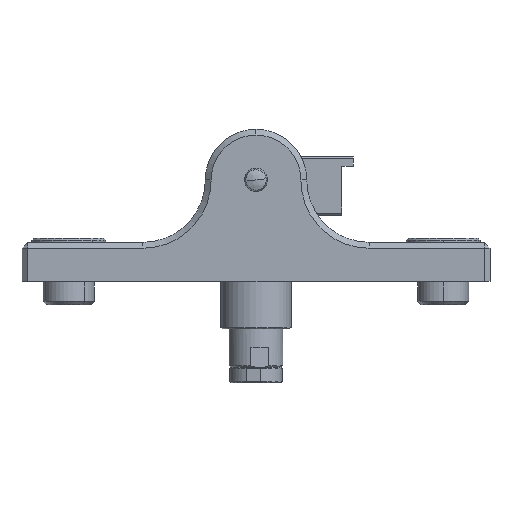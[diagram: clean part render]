
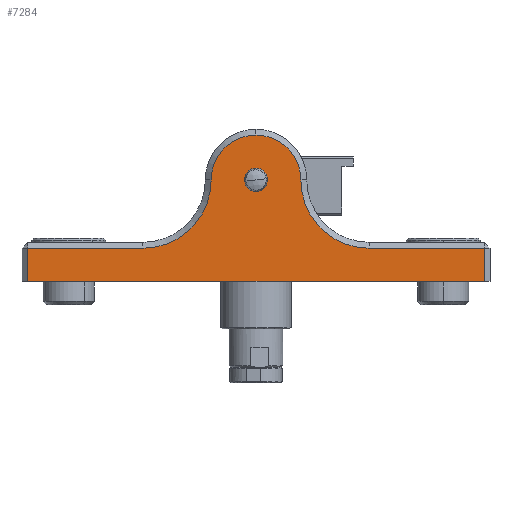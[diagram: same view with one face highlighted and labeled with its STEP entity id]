
A CAD part, front view. The second image highlights one B-rep face of the part: STEP entity #7284.
In plain terms, the highlighted planar face has unit normal (0, -1, 0).
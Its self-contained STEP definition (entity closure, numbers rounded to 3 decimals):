
#17 = AXIS2_PLACEMENT_3D ( 'NONE', #5897, #5898, #5899 ) ;
#352 = EDGE_CURVE ( 'NONE', #4392, #4394, #3627, .T. ) ;
#457 = EDGE_CURVE ( 'NONE', #4392, #4401, #2226, .T. ) ;
#476 = EDGE_CURVE ( 'NONE', #4369, #4370, #3788, .T. ) ;
#1190 = LINE ( 'NONE', #1191, #6326 ) ;
#1191 = CARTESIAN_POINT ( 'NONE',  ( -29., -12.5, 8.5 ) ) ;
#1192 = DIRECTION ( 'NONE',  ( -1., 0., 0. ) ) ;
#1355 = CARTESIAN_POINT ( 'NONE',  ( 0., -12.5, 26. ) ) ;
#1356 = DIRECTION ( 'NONE',  ( 0., 1., 0. ) ) ;
#1357 = DIRECTION ( 'NONE',  ( 0., 0., 1. ) ) ;
#1366 = LINE ( 'NONE', #3827, #3180 ) ;
#2094 = ORIENTED_EDGE ( 'NONE', *, *, #457, .T. ) ;
#2095 = ORIENTED_EDGE ( 'NONE', *, *, #7690, .T. ) ;
#2096 = ORIENTED_EDGE ( 'NONE', *, *, #352, .F. ) ;
#2101 = ORIENTED_EDGE ( 'NONE', *, *, #7629, .T. ) ;
#2126 = VECTOR ( 'NONE', #5904, 1000. ) ;
#2226 = LINE ( 'NONE', #2232, #3821 ) ;
#2232 = CARTESIAN_POINT ( 'NONE',  ( 58.5, -12.5, 26. ) ) ;
#2233 = DIRECTION ( 'NONE',  ( 0., 0., 1. ) ) ;
#2290 = CARTESIAN_POINT ( 'NONE',  ( 0., -12.5, 26. ) ) ;
#2291 = DIRECTION ( 'NONE',  ( 0., 1., 0. ) ) ;
#2292 = DIRECTION ( 'NONE',  ( 0., 0., 1. ) ) ;
#2595 = CARTESIAN_POINT ( 'NONE',  ( 0., -12.5, 26. ) ) ;
#2596 = DIRECTION ( 'NONE',  ( 0., -1., 0. ) ) ;
#2597 = DIRECTION ( 'NONE',  ( 0., 0., 1. ) ) ;
#3081 = CIRCLE ( 'NONE', #17, 11.5 ) ;
#3094 = AXIS2_PLACEMENT_3D ( 'NONE', #3841, #3842, #3843 ) ;
#3128 = AXIS2_PLACEMENT_3D ( 'NONE', #3844, #3845, #3846 ) ;
#3136 = CIRCLE ( 'NONE', #3147, 3. ) ;
#3141 = CIRCLE ( 'NONE', #3128, 17.5 ) ;
#3147 = AXIS2_PLACEMENT_3D ( 'NONE', #1355, #1356, #1357 ) ;
#3180 = VECTOR ( 'NONE', #3828, 1000. ) ;
#3188 = CIRCLE ( 'NONE', #3094, 17.5 ) ;
#3369 = ORIENTED_EDGE ( 'NONE', *, *, #7906, .T. ) ;
#3380 = ORIENTED_EDGE ( 'NONE', *, *, #7903, .T. ) ;
#3381 = ORIENTED_EDGE ( 'NONE', *, *, #7473, .T. ) ;
#3387 = ORIENTED_EDGE ( 'NONE', *, *, #7696, .T. ) ;
#3412 = ORIENTED_EDGE ( 'NONE', *, *, #7684, .T. ) ;
#3413 = ORIENTED_EDGE ( 'NONE', *, *, #476, .T. ) ;
#3414 = ORIENTED_EDGE ( 'NONE', *, *, #7695, .T. ) ;
#3621 = CARTESIAN_POINT ( 'NONE',  ( -60., -12.5, 0. ) ) ;
#3627 = LINE ( 'NONE', #3621, #6367 ) ;
#3631 = DIRECTION ( 'NONE',  ( -1., 0., 0. ) ) ;
#3743 = AXIS2_PLACEMENT_3D ( 'NONE', #5204, #5215, #5216 ) ;
#3786 = AXIS2_PLACEMENT_3D ( 'NONE', #2290, #2291, #2292 ) ;
#3788 = CIRCLE ( 'NONE', #3786, 3. ) ;
#3821 = VECTOR ( 'NONE', #2233, 1000. ) ;
#3827 = CARTESIAN_POINT ( 'NONE',  ( -58.5, -12.5, 26. ) ) ;
#3828 = DIRECTION ( 'NONE',  ( 0., 0., -1. ) ) ;
#3841 = CARTESIAN_POINT ( 'NONE',  ( 29., -12.5, 26. ) ) ;
#3842 = DIRECTION ( 'NONE',  ( 0., 1., 0. ) ) ;
#3843 = DIRECTION ( 'NONE',  ( 0., 0., 1. ) ) ;
#3844 = CARTESIAN_POINT ( 'NONE',  ( -29., -12.5, 26. ) ) ;
#3845 = DIRECTION ( 'NONE',  ( 0., 1., 0. ) ) ;
#3846 = DIRECTION ( 'NONE',  ( 0., 0., 1. ) ) ;
#4305 = EDGE_LOOP ( 'NONE', ( #3413, #3412 ) ) ;
#4308 = EDGE_LOOP ( 'NONE', ( #2101, #2095, #2096, #2094, #3369, #3414, #3381, #3380, #3387 ) ) ;
#4331 = VERTEX_POINT ( 'NONE', #4670 ) ;
#4369 = VERTEX_POINT ( 'NONE', #4706 ) ;
#4370 = VERTEX_POINT ( 'NONE', #4707 ) ;
#4386 = VERTEX_POINT ( 'NONE', #4723 ) ;
#4392 = VERTEX_POINT ( 'NONE', #4729 ) ;
#4394 = VERTEX_POINT ( 'NONE', #4731 ) ;
#4399 = VERTEX_POINT ( 'NONE', #4736 ) ;
#4400 = VERTEX_POINT ( 'NONE', #4737 ) ;
#4401 = VERTEX_POINT ( 'NONE', #4738 ) ;
#4575 = VERTEX_POINT ( 'NONE', #4912 ) ;
#4576 = VERTEX_POINT ( 'NONE', #4913 ) ;
#4670 = CARTESIAN_POINT ( 'NONE',  ( -29., -12.5, 8.5 ) ) ;
#4706 = CARTESIAN_POINT ( 'NONE',  ( 0., -12.5, 23. ) ) ;
#4707 = CARTESIAN_POINT ( 'NONE',  ( 0., -12.5, 29. ) ) ;
#4723 = CARTESIAN_POINT ( 'NONE',  ( -58.5, -12.5, 8.5 ) ) ;
#4729 = CARTESIAN_POINT ( 'NONE',  ( 58.5, -12.5, 0. ) ) ;
#4731 = CARTESIAN_POINT ( 'NONE',  ( -58.5, -12.5, 0. ) ) ;
#4736 = CARTESIAN_POINT ( 'NONE',  ( 11.5, -12.5, 26. ) ) ;
#4737 = CARTESIAN_POINT ( 'NONE',  ( 29., -12.5, 8.5 ) ) ;
#4738 = CARTESIAN_POINT ( 'NONE',  ( 58.5, -12.5, 8.5 ) ) ;
#4912 = CARTESIAN_POINT ( 'NONE',  ( -11.5, -12.5, 26. ) ) ;
#4913 = CARTESIAN_POINT ( 'NONE',  ( 0., -12.5, 37.5 ) ) ;
#5204 = CARTESIAN_POINT ( 'NONE',  ( -29., -12.5, 26. ) ) ;
#5211 = FACE_OUTER_BOUND ( 'NONE', #4308, .T. ) ;
#5212 = FACE_BOUND ( 'NONE', #4305, .T. ) ;
#5213 = PLANE ( 'NONE',  #3743 ) ;
#5215 = DIRECTION ( 'NONE',  ( 0., 1., 0. ) ) ;
#5216 = DIRECTION ( 'NONE',  ( 0., 0., 1. ) ) ;
#5895 = LINE ( 'NONE', #5896, #2126 ) ;
#5896 = CARTESIAN_POINT ( 'NONE',  ( -29., -12.5, 8.5 ) ) ;
#5897 = CARTESIAN_POINT ( 'NONE',  ( 0., -12.5, 26. ) ) ;
#5898 = DIRECTION ( 'NONE',  ( 0., -1., 0. ) ) ;
#5899 = DIRECTION ( 'NONE',  ( 0., 0., 1. ) ) ;
#5904 = DIRECTION ( 'NONE',  ( -1., 0., 0. ) ) ;
#6133 = CIRCLE ( 'NONE', #6138, 11.5 ) ;
#6138 = AXIS2_PLACEMENT_3D ( 'NONE', #2595, #2596, #2597 ) ;
#6326 = VECTOR ( 'NONE', #1192, 1000. ) ;
#6367 = VECTOR ( 'NONE', #3631, 1000. ) ;
#7284 = ADVANCED_FACE ( 'NONE', ( #5211, #5212 ), #5213, .F. ) ;
#7473 = EDGE_CURVE ( 'NONE', #4399, #4576, #6133, .T. ) ;
#7629 = EDGE_CURVE ( 'NONE', #4331, #4386, #1190, .T. ) ;
#7684 = EDGE_CURVE ( 'NONE', #4370, #4369, #3136, .T. ) ;
#7690 = EDGE_CURVE ( 'NONE', #4386, #4394, #1366, .T. ) ;
#7695 = EDGE_CURVE ( 'NONE', #4400, #4399, #3188, .T. ) ;
#7696 = EDGE_CURVE ( 'NONE', #4575, #4331, #3141, .T. ) ;
#7903 = EDGE_CURVE ( 'NONE', #4576, #4575, #3081, .T. ) ;
#7906 = EDGE_CURVE ( 'NONE', #4401, #4400, #5895, .T. ) ;
